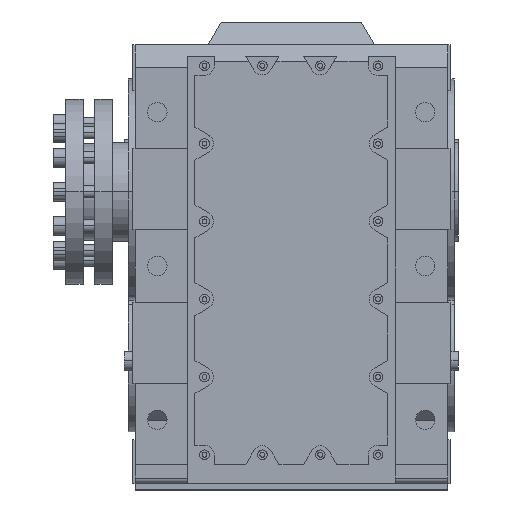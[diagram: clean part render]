
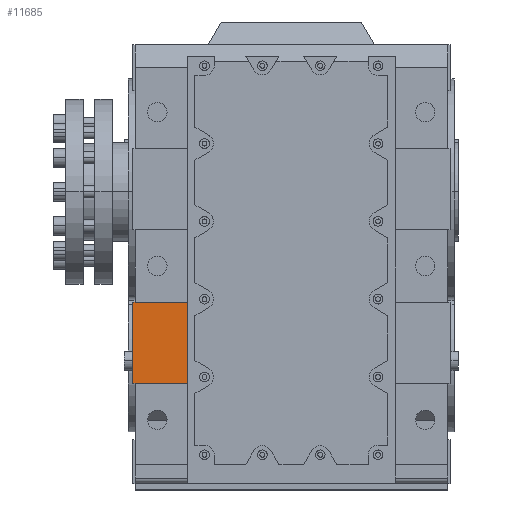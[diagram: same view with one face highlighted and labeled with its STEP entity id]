
A CAD part, top view. The second image highlights one B-rep face of the part: STEP entity #11685.
In plain terms, the highlighted planar face has unit normal (0, 0, 1).
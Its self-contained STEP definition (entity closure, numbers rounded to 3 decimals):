
#640 = PLANE('',#641);
#641 = AXIS2_PLACEMENT_3D('',#642,#643,#644);
#642 = CARTESIAN_POINT('',(-320.,-386.667,355.));
#643 = DIRECTION('',(0.,-1.,0.));
#644 = DIRECTION('',(0.,0.,-1.));
#696 = PLANE('',#697);
#697 = AXIS2_PLACEMENT_3D('',#698,#699,#700);
#698 = CARTESIAN_POINT('',(-320.,-223.333,355.));
#699 = DIRECTION('',(0.,1.,0.));
#700 = DIRECTION('',(0.,0.,1.));
#3848 = VERTEX_POINT('',#3849);
#3849 = CARTESIAN_POINT('',(-320.,-223.333,342.5));
#3863 = PLANE('',#3864);
#3864 = AXIS2_PLACEMENT_3D('',#3865,#3866,#3867);
#3865 = CARTESIAN_POINT('',(-320.,-386.667,355.));
#3866 = DIRECTION('',(1.,0.,0.));
#3867 = DIRECTION('',(0.,0.,-1.));
#3875 = EDGE_CURVE('',#3848,#3876,#3878,.T.);
#3876 = VERTEX_POINT('',#3877);
#3877 = CARTESIAN_POINT('',(-315.,-223.333,342.5));
#3878 = SURFACE_CURVE('',#3879,(#3883,#3890),.PCURVE_S1.);
#3879 = LINE('',#3880,#3881);
#3880 = CARTESIAN_POINT('',(-332.5,-223.333,342.5));
#3881 = VECTOR('',#3882,1.);
#3882 = DIRECTION('',(1.,0.,0.));
#3883 = PCURVE('',#696,#3884);
#3884 = DEFINITIONAL_REPRESENTATION('',(#3885),#3889);
#3885 = LINE('',#3886,#3887);
#3886 = CARTESIAN_POINT('',(-12.5,-12.5));
#3887 = VECTOR('',#3888,1.);
#3888 = DIRECTION('',(0.,1.));
#3889 = ( GEOMETRIC_REPRESENTATION_CONTEXT(2) 
PARAMETRIC_REPRESENTATION_CONTEXT() REPRESENTATION_CONTEXT('2D SPACE',''
  ) );
#3890 = PCURVE('',#3891,#3896);
#3891 = PLANE('',#3892);
#3892 = AXIS2_PLACEMENT_3D('',#3893,#3894,#3895);
#3893 = CARTESIAN_POINT('',(-315.,-550.,342.5));
#3894 = DIRECTION('',(0.,0.,-1.));
#3895 = DIRECTION('',(0.,1.,0.));
#3896 = DEFINITIONAL_REPRESENTATION('',(#3897),#3901);
#3897 = LINE('',#3898,#3899);
#3898 = CARTESIAN_POINT('',(326.667,-17.5));
#3899 = VECTOR('',#3900,1.);
#3900 = DIRECTION('',(0.,1.));
#3901 = ( GEOMETRIC_REPRESENTATION_CONTEXT(2) 
PARAMETRIC_REPRESENTATION_CONTEXT() REPRESENTATION_CONTEXT('2D SPACE',''
  ) );
#5806 = VERTEX_POINT('',#5807);
#5807 = CARTESIAN_POINT('',(-315.,-386.667,342.5));
#5828 = EDGE_CURVE('',#5806,#5829,#5831,.T.);
#5829 = VERTEX_POINT('',#5830);
#5830 = CARTESIAN_POINT('',(-320.,-386.667,342.5));
#5831 = SURFACE_CURVE('',#5832,(#5836,#5843),.PCURVE_S1.);
#5832 = LINE('',#5833,#5834);
#5833 = CARTESIAN_POINT('',(-332.5,-386.667,342.5));
#5834 = VECTOR('',#5835,1.);
#5835 = DIRECTION('',(-1.,0.,0.));
#5836 = PCURVE('',#640,#5837);
#5837 = DEFINITIONAL_REPRESENTATION('',(#5838),#5842);
#5838 = LINE('',#5839,#5840);
#5839 = CARTESIAN_POINT('',(12.5,-12.5));
#5840 = VECTOR('',#5841,1.);
#5841 = DIRECTION('',(0.,-1.));
#5842 = ( GEOMETRIC_REPRESENTATION_CONTEXT(2) 
PARAMETRIC_REPRESENTATION_CONTEXT() REPRESENTATION_CONTEXT('2D SPACE',''
  ) );
#5843 = PCURVE('',#3891,#5844);
#5844 = DEFINITIONAL_REPRESENTATION('',(#5845),#5849);
#5845 = LINE('',#5846,#5847);
#5846 = CARTESIAN_POINT('',(163.333,-17.5));
#5847 = VECTOR('',#5848,1.);
#5848 = DIRECTION('',(0.,-1.));
#5849 = ( GEOMETRIC_REPRESENTATION_CONTEXT(2) 
PARAMETRIC_REPRESENTATION_CONTEXT() REPRESENTATION_CONTEXT('2D SPACE',''
  ) );
#11278 = PLANE('',#11279);
#11279 = AXIS2_PLACEMENT_3D('',#11280,#11281,#11282);
#11280 = CARTESIAN_POINT('',(-210.,-386.667,342.5));
#11281 = DIRECTION('',(1.,0.,0.));
#11282 = DIRECTION('',(0.,0.,-1.));
#11527 = EDGE_CURVE('',#3848,#5829,#11528,.T.);
#11528 = SURFACE_CURVE('',#11529,(#11533,#11540),.PCURVE_S1.);
#11529 = LINE('',#11530,#11531);
#11530 = CARTESIAN_POINT('',(-320.,-386.667,342.5));
#11531 = VECTOR('',#11532,1.);
#11532 = DIRECTION('',(0.,-1.,0.));
#11533 = PCURVE('',#3863,#11534);
#11534 = DEFINITIONAL_REPRESENTATION('',(#11535),#11539);
#11535 = LINE('',#11536,#11537);
#11536 = CARTESIAN_POINT('',(12.5,0.));
#11537 = VECTOR('',#11538,1.);
#11538 = DIRECTION('',(0.,-1.));
#11539 = ( GEOMETRIC_REPRESENTATION_CONTEXT(2) 
PARAMETRIC_REPRESENTATION_CONTEXT() REPRESENTATION_CONTEXT('2D SPACE',''
  ) );
#11540 = PCURVE('',#3891,#11541);
#11541 = DEFINITIONAL_REPRESENTATION('',(#11542),#11546);
#11542 = LINE('',#11543,#11544);
#11543 = CARTESIAN_POINT('',(163.333,-5.));
#11544 = VECTOR('',#11545,1.);
#11545 = DIRECTION('',(-1.,0.));
#11546 = ( GEOMETRIC_REPRESENTATION_CONTEXT(2) 
PARAMETRIC_REPRESENTATION_CONTEXT() REPRESENTATION_CONTEXT('2D SPACE',''
  ) );
#11592 = PLANE('',#11593);
#11593 = AXIS2_PLACEMENT_3D('',#11594,#11595,#11596);
#11594 = CARTESIAN_POINT('',(-332.5,-223.333,342.5));
#11595 = DIRECTION('',(0.,-1.,0.));
#11596 = DIRECTION('',(1.,0.,0.));
#11685 = ADVANCED_FACE('',(#11686),#3891,.F.);
#11686 = FACE_BOUND('',#11687,.T.);
#11687 = EDGE_LOOP('',(#11688,#11716,#11739,#11760,#11761,#11762));
#11688 = ORIENTED_EDGE('',*,*,#11689,.F.);
#11689 = EDGE_CURVE('',#11690,#5806,#11692,.T.);
#11690 = VERTEX_POINT('',#11691);
#11691 = CARTESIAN_POINT('',(-210.,-386.667,342.5));
#11692 = SURFACE_CURVE('',#11693,(#11697,#11704),.PCURVE_S1.);
#11693 = LINE('',#11694,#11695);
#11694 = CARTESIAN_POINT('',(-332.5,-386.667,342.5));
#11695 = VECTOR('',#11696,1.);
#11696 = DIRECTION('',(-1.,0.,0.));
#11697 = PCURVE('',#3891,#11698);
#11698 = DEFINITIONAL_REPRESENTATION('',(#11699),#11703);
#11699 = LINE('',#11700,#11701);
#11700 = CARTESIAN_POINT('',(163.333,-17.5));
#11701 = VECTOR('',#11702,1.);
#11702 = DIRECTION('',(0.,-1.));
#11703 = ( GEOMETRIC_REPRESENTATION_CONTEXT(2) 
PARAMETRIC_REPRESENTATION_CONTEXT() REPRESENTATION_CONTEXT('2D SPACE',''
  ) );
#11704 = PCURVE('',#11705,#11710);
#11705 = PLANE('',#11706);
#11706 = AXIS2_PLACEMENT_3D('',#11707,#11708,#11709);
#11707 = CARTESIAN_POINT('',(-332.5,-386.667,342.5));
#11708 = DIRECTION('',(0.,1.,0.));
#11709 = DIRECTION('',(-1.,0.,0.));
#11710 = DEFINITIONAL_REPRESENTATION('',(#11711),#11715);
#11711 = LINE('',#11712,#11713);
#11712 = CARTESIAN_POINT('',(0.,0.));
#11713 = VECTOR('',#11714,1.);
#11714 = DIRECTION('',(1.,0.));
#11715 = ( GEOMETRIC_REPRESENTATION_CONTEXT(2) 
PARAMETRIC_REPRESENTATION_CONTEXT() REPRESENTATION_CONTEXT('2D SPACE',''
  ) );
#11716 = ORIENTED_EDGE('',*,*,#11717,.F.);
#11717 = EDGE_CURVE('',#11718,#11690,#11720,.T.);
#11718 = VERTEX_POINT('',#11719);
#11719 = CARTESIAN_POINT('',(-210.,-223.333,342.5));
#11720 = SURFACE_CURVE('',#11721,(#11725,#11732),.PCURVE_S1.);
#11721 = LINE('',#11722,#11723);
#11722 = CARTESIAN_POINT('',(-210.,296.,342.5));
#11723 = VECTOR('',#11724,1.);
#11724 = DIRECTION('',(0.,-1.,0.));
#11725 = PCURVE('',#3891,#11726);
#11726 = DEFINITIONAL_REPRESENTATION('',(#11727),#11731);
#11727 = LINE('',#11728,#11729);
#11728 = CARTESIAN_POINT('',(846.,105.));
#11729 = VECTOR('',#11730,1.);
#11730 = DIRECTION('',(-1.,0.));
#11731 = ( GEOMETRIC_REPRESENTATION_CONTEXT(2) 
PARAMETRIC_REPRESENTATION_CONTEXT() REPRESENTATION_CONTEXT('2D SPACE',''
  ) );
#11732 = PCURVE('',#11278,#11733);
#11733 = DEFINITIONAL_REPRESENTATION('',(#11734),#11738);
#11734 = LINE('',#11735,#11736);
#11735 = CARTESIAN_POINT('',(0.,682.667));
#11736 = VECTOR('',#11737,1.);
#11737 = DIRECTION('',(0.,-1.));
#11738 = ( GEOMETRIC_REPRESENTATION_CONTEXT(2) 
PARAMETRIC_REPRESENTATION_CONTEXT() REPRESENTATION_CONTEXT('2D SPACE',''
  ) );
#11739 = ORIENTED_EDGE('',*,*,#11740,.F.);
#11740 = EDGE_CURVE('',#3876,#11718,#11741,.T.);
#11741 = SURFACE_CURVE('',#11742,(#11746,#11753),.PCURVE_S1.);
#11742 = LINE('',#11743,#11744);
#11743 = CARTESIAN_POINT('',(-332.5,-223.333,342.5));
#11744 = VECTOR('',#11745,1.);
#11745 = DIRECTION('',(1.,0.,0.));
#11746 = PCURVE('',#3891,#11747);
#11747 = DEFINITIONAL_REPRESENTATION('',(#11748),#11752);
#11748 = LINE('',#11749,#11750);
#11749 = CARTESIAN_POINT('',(326.667,-17.5));
#11750 = VECTOR('',#11751,1.);
#11751 = DIRECTION('',(0.,1.));
#11752 = ( GEOMETRIC_REPRESENTATION_CONTEXT(2) 
PARAMETRIC_REPRESENTATION_CONTEXT() REPRESENTATION_CONTEXT('2D SPACE',''
  ) );
#11753 = PCURVE('',#11592,#11754);
#11754 = DEFINITIONAL_REPRESENTATION('',(#11755),#11759);
#11755 = LINE('',#11756,#11757);
#11756 = CARTESIAN_POINT('',(0.,0.));
#11757 = VECTOR('',#11758,1.);
#11758 = DIRECTION('',(1.,0.));
#11759 = ( GEOMETRIC_REPRESENTATION_CONTEXT(2) 
PARAMETRIC_REPRESENTATION_CONTEXT() REPRESENTATION_CONTEXT('2D SPACE',''
  ) );
#11760 = ORIENTED_EDGE('',*,*,#3875,.F.);
#11761 = ORIENTED_EDGE('',*,*,#11527,.T.);
#11762 = ORIENTED_EDGE('',*,*,#5828,.F.);
